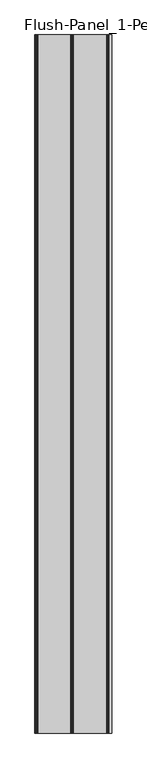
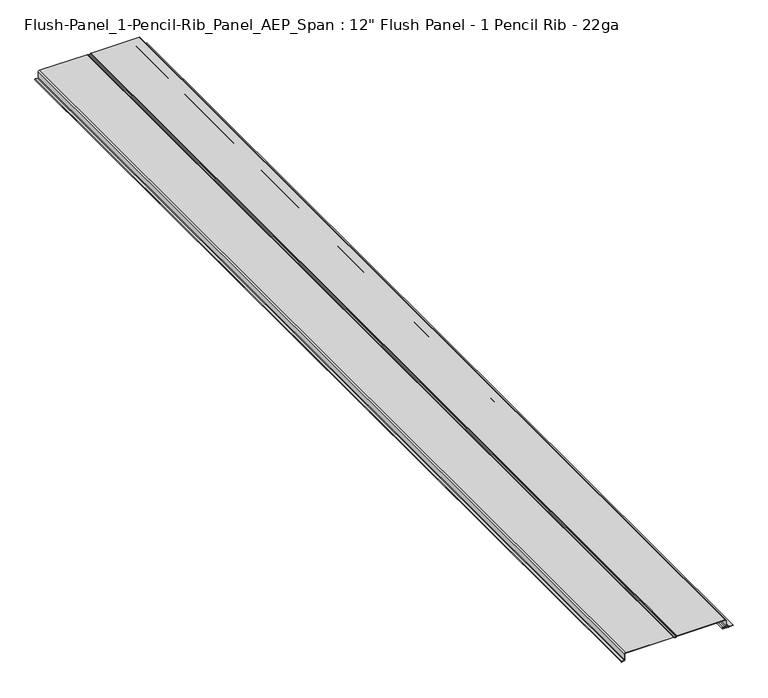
"""IFC4 building model written with IfcOpenShell, lengths in millimetres: proxy geometry."""

from ifc_helpers import new_model, si_unit, point, frame, frame_2d, origin, place, context, project, spatial, polyline, circle_curve, trimmed, segment, composite_curve, outline, extrude, source, transform, mapped, element, save


def proxy_ff258109(model_context):
    return source(origin(), model_context, "Body", "SweptSolid", [
        extrude(outline(composite_curve([segment(trimmed(circle_curve(frame_2d((1.3208, 186.1001982)), 1.524), [point((-0.2032, 186.1001982))], [point((2.8448, 186.1001982))], True, "CARTESIAN"), True, "CONTINUOUS"), segment(polyline([(2.8448, 186.1001982), (2.8448, 193.1867982)]), True, "CONTINUOUS"), segment(trimmed(circle_curve(frame_2d((5.5372, 193.1867982)), 2.6924), [point((2.8448, 193.1867982))], [point((5.5372, 195.8791982))], False, "CARTESIAN"), True, "CONTINUOUS"), segment(polyline([(5.5372, 195.8791982), (21.9964, 195.8791982)]), True, "CONTINUOUS"), segment(trimmed(circle_curve(frame_2d((21.9964, 193.1867982)), 2.6924), [point((21.9964, 195.8791982))], [point((24.6888, 193.1867982))], False, "CARTESIAN"), True, "CONTINUOUS"), segment(polyline([(24.6888, 193.1867982), (24.6888, 49.206835)]), True, "CONTINUOUS"), segment(trimmed(circle_curve(frame_2d((22.1234, 49.206835)), 2.5654), [point((24.6888, 49.206835))], [point((24.2248527, 47.735382))], False, "CARTESIAN"), True, "CONTINUOUS"), segment(polyline([(24.2248527, 47.735382), (22.5197923, 45.3003034)]), True, "CONTINUOUS"), segment(trimmed(circle_curve(frame_2d((25.1206, 43.4791982)), 3.175), [point((22.5197923, 45.3003034))], [point((22.5197923, 41.6580931))], True, "CARTESIAN"), True, "CONTINUOUS"), segment(polyline([(22.5197923, 41.6580931), (24.2248527, 39.2230145)]), True, "CONTINUOUS"), segment(trimmed(circle_curve(frame_2d((22.1234, 37.7515615)), 2.5654), [point((24.2248527, 39.2230145))], [point((24.6888, 37.7515615))], False, "CARTESIAN"), True, "CONTINUOUS"), segment(polyline([(24.6888, 37.7515615), (24.6888, -106.2284018)]), True, "CONTINUOUS"), segment(trimmed(circle_curve(frame_2d((21.9964, -106.2284018)), 2.6924), [point((24.6888, -106.2284018))], [point((21.9964, -108.9208018))], False, "CARTESIAN"), True, "CONTINUOUS"), segment(polyline([(21.9964, -108.9208018), (3.9624, -108.9208018)]), True, "CONTINUOUS"), segment(trimmed(circle_curve(frame_2d((3.9624, -110.6480018)), 1.7272), [point((3.9624, -108.9208018))], [point((2.2352, -110.6480018))], True, "CARTESIAN"), True, "CONTINUOUS"), segment(polyline([(2.2352, -110.6480018), (2.2352, -118.4966018)]), True, "CONTINUOUS"), segment(trimmed(circle_curve(frame_2d((1.1176, -118.4966018)), 1.1176), [point((2.2352, -118.4966018))], [point((0.0, -118.4966018))], False, "CARTESIAN"), True, "CONTINUOUS"), segment(polyline([(0.0, -118.4966018), (0.0, -112.7562018), (0.8364409, -112.7562018), (0.7250979, -118.4023504)]), True, "CONTINUOUS"), segment(trimmed(circle_curve(frame_2d((1.1132676, -118.4023504)), 0.3881697), [point((0.7250979, -118.4023504))], [point((1.5014373, -118.4023504))], True, "CARTESIAN"), True, "CONTINUOUS"), segment(polyline([(1.5014373, -118.4023504), (1.5014373, -110.6884931)]), True, "CONTINUOUS"), segment(trimmed(circle_curve(frame_2d((4.0158886, -110.6884931)), 2.5144513), [point((1.5014373, -110.6884931))], [point((4.0158886, -108.1740418))], False, "CARTESIAN"), True, "CONTINUOUS"), segment(polyline([(4.0158886, -108.1740418), (22.041765, -108.1740418)]), True, "CONTINUOUS"), segment(trimmed(circle_curve(frame_2d((22.041765, -106.2737668)), 1.900275), [point((22.041765, -108.1740418))], [point((23.94204, -106.2737668))], True, "CARTESIAN"), True, "CONTINUOUS"), segment(polyline([(23.94204, -106.2737668), (23.94204, 37.7515615)]), True, "CONTINUOUS"), segment(trimmed(circle_curve(frame_2d((22.0711713, 37.7515615)), 1.8708687), [point((23.94204, 37.7515615))], [point((23.6036972, 38.8246477))], True, "CARTESIAN"), True, "CONTINUOUS"), segment(polyline([(23.6036972, 38.8246477), (21.8986368, 41.2597263)]), True, "CONTINUOUS"), segment(trimmed(circle_curve(frame_2d((25.0683712, 43.4791982)), 3.8695312), [point((21.8986368, 41.2597263))], [point((21.8986368, 45.6986702))], False, "CARTESIAN"), True, "CONTINUOUS"), segment(polyline([(21.8986368, 45.6986702), (23.6036972, 48.1337487)]), True, "CONTINUOUS"), segment(trimmed(circle_curve(frame_2d((22.0711713, 49.206835)), 1.8708687), [point((23.6036972, 48.1337487))], [point((23.94204, 49.206835))], True, "CARTESIAN"), True, "CONTINUOUS"), segment(polyline([(23.94204, 49.206835), (23.94204, 193.2333808)]), True, "CONTINUOUS"), segment(trimmed(circle_curve(frame_2d((22.0429826, 193.2333808)), 1.8990574), [point((23.94204, 193.2333808))], [point((22.0429826, 195.1324382))], True, "CARTESIAN"), True, "CONTINUOUS"), segment(polyline([(22.0429826, 195.1324382), (5.4903166, 195.1324382)]), True, "CONTINUOUS"), segment(trimmed(circle_curve(frame_2d((5.4903166, 193.2336816)), 1.8987566), [point((5.4903166, 195.1324382))], [point((3.59156, 193.2336816))], True, "CARTESIAN"), True, "CONTINUOUS"), segment(polyline([(3.59156, 193.2336816), (3.59156, 186.1001982)]), True, "CONTINUOUS"), segment(trimmed(circle_curve(frame_2d((1.3208, 186.1001982)), 2.27076), [point((3.59156, 186.1001982))], [point((-0.94996, 186.1001982))], False, "CARTESIAN"), True, "CONTINUOUS"), segment(polyline([(-0.94996, 186.1001982), (-0.94996, 201.3052025), (-1.5971248, 202.693052)]), True, "CONTINUOUS"), segment(trimmed(circle_curve(frame_2d((-0.03175, 203.4229982)), 1.7272), [point((-1.5971248, 202.693052))], [point((-1.5971248, 204.1529445))], False, "CARTESIAN"), True, "CONTINUOUS"), segment(polyline([(-1.5971248, 204.1529445), (-0.94996, 205.5407939), (-0.94996, 216.3769982), (-0.0986239, 216.3769982), (-0.2032, 205.2640534), (-0.877743, 203.8174912)]), True, "CONTINUOUS"), segment(trimmed(circle_curve(frame_2d((-0.03175, 203.4229982)), 0.93345), [point((-0.877743, 203.8174912))], [point((-0.877743, 203.0285052))], True, "CARTESIAN"), True, "CONTINUOUS"), segment(polyline([(-0.877743, 203.0285052), (-0.2032, 201.5819431), (-0.2032, 186.1001982)]), True, "CONTINUOUS")], self_intersect=False)), frame((0.0, -3048.0, 0.0), z_axis=(0.0, 1.0, 0.0), x_axis=(0.0, 0.0, 1.0)), (0.0, 0.0, 1.0), 3048.0),
    ])


if __name__ == "__main__":
    model = new_model("IFC4")
    model_context = context("Model", 3, world=origin())
    ifc_project = project(units=[si_unit("LENGTHUNIT", "METRE", prefix="MILLI")], contexts=[model_context])
    site = spatial("IfcSite", under=ifc_project)
    building = spatial("IfcBuilding", under=site)
    placement = place(None, origin())
    proxy_shape = proxy_ff258109(model_context)
    element("IfcBuildingElementProxy", 1, Name="Flush-Panel_1-Pencil-Rib_Panel_AEP_Span : 12\" Flush Panel - 1 Pencil Rib - 22ga", ObjectType="Flush-Panel_1-Pencil-Rib_Panel_AEP_Span : 12\" Flush Panel - 1 Pencil Rib - 22ga", at=placement, inside=building, context=model_context, shape_type="MappedRepresentation", body=[
        mapped(proxy_shape, transform((0.0, 0.0, 0.0), x_axis=(1.0, 0.0, 0.0), y_axis=(0.0, 1.0, 0.0), z_axis=(0.0, 0.0, 1.0))),
    ])
    save(model, "model.ifc")
